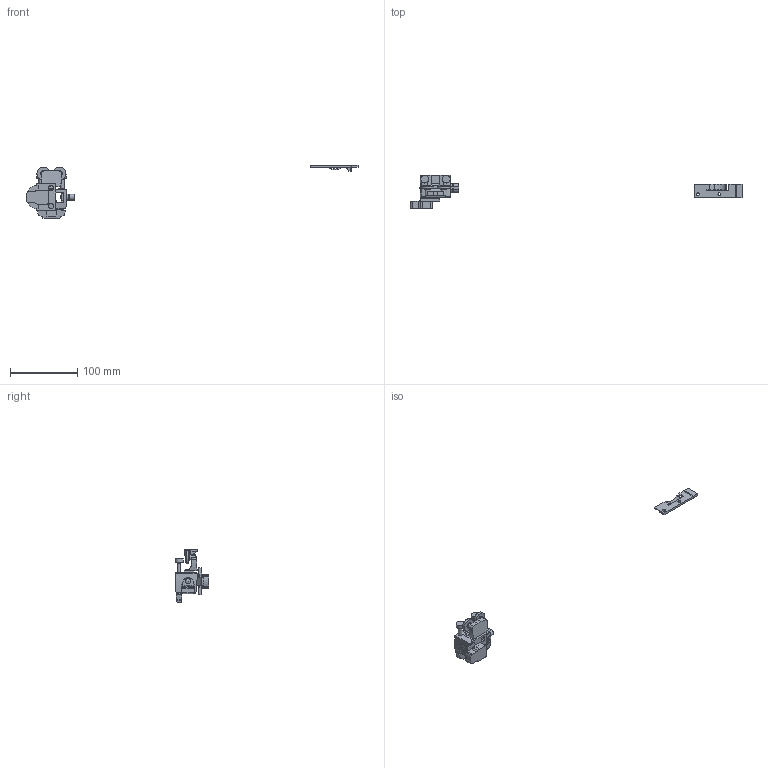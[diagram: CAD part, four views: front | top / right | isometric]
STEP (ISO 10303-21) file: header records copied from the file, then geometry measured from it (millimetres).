
FILE_DESCRIPTION( ( 'STEP AP214' ), '1' );
FILE_NAME( 'C:/Users/KOSH/Desktop/Export/Wingline L/9278611.stp', '2020-02-17T09:43:57', ( '' ), ( '' ), ' ', 'PARTsolutions', ' ' );
FILE_SCHEMA( ( 'AUTOMOTIVE_DESIGN { 1 0 10303 214 1 1 1 1 }' ) );
Length unit declared in the file: millimetre
Products named in the file (4): 9278611; _9237711; _9237484; _9236926
Assembly tree (3 placements, depth 2):
  9278611
    _9237711
    _9237484
    _9236926
Bounding box: 492.44 x 49.8 x 79.7 mm (x, y, z)
Volume: 54146.5 mm3; surface area: 30720.1 mm2
Topology: 3 solids, 3 shells, 474 faces, 1380 edges, 918 vertices
Faces by surface type: plane 335, cylinder 132, cone 5, bspline 1, torus 1
Full cylindrical faces by diameter (mm): 2 x2, 3 x2, 4.2 x2, 4.4 x2, 5 x1, 5.2 x4, 7 x2, 8 x4, 11.59 x2, 13 x2, 19 x2
Entity records: 19927 total; most frequent: CARTESIAN_POINT 3488, ORIENTED_EDGE 2672, DIRECTION 2510, EDGE_CURVE 1336, LINE 976, VECTOR 976, VERTEX_POINT 907, AXIS2_PLACEMENT_3D 767
